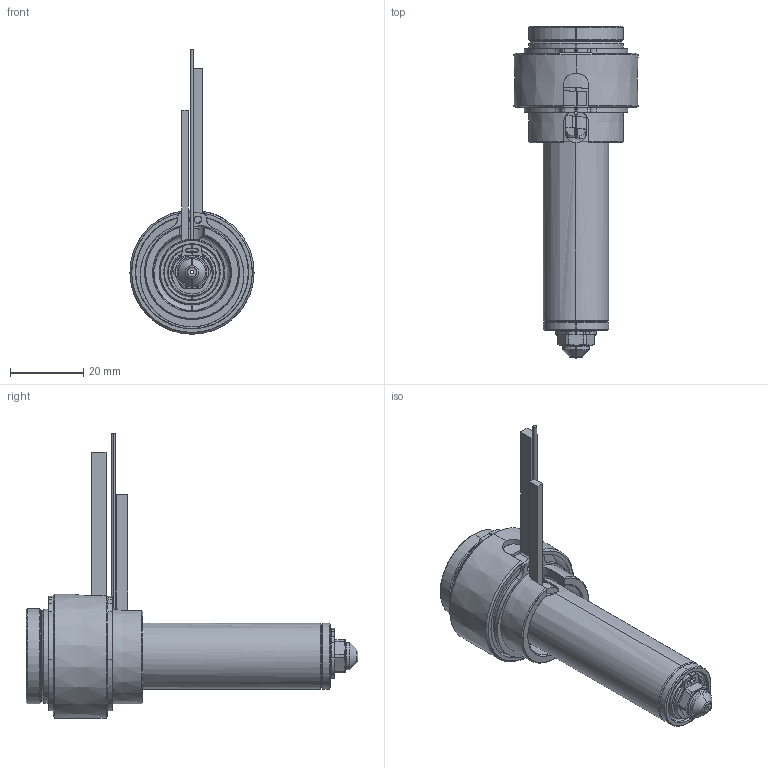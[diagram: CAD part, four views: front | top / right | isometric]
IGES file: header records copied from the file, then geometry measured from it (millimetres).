
Start section: SolidWorks IGES file using analytic representation for surfaces
Global section: file name: C:\Documents and Settings\ws-20\Desktop\TEM\UGER2502-S-A-1 [Øb-0.90 ØC-5.0].IGS; native system: SolidWorks 2012; preprocessor: SolidWorks 2012; author: ws-20; date: 120405.105132; units: millimetre
Bounding box: 34 x 90.9 x 77.9 mm (x, y, z)
Surface area: 22456.1 mm2 (no closed solid volume)
Topology: 0 solids, 0 shells, 206 faces, 2723 edges, 2723 vertices
Faces by surface type: revolution 132, bspline 74
